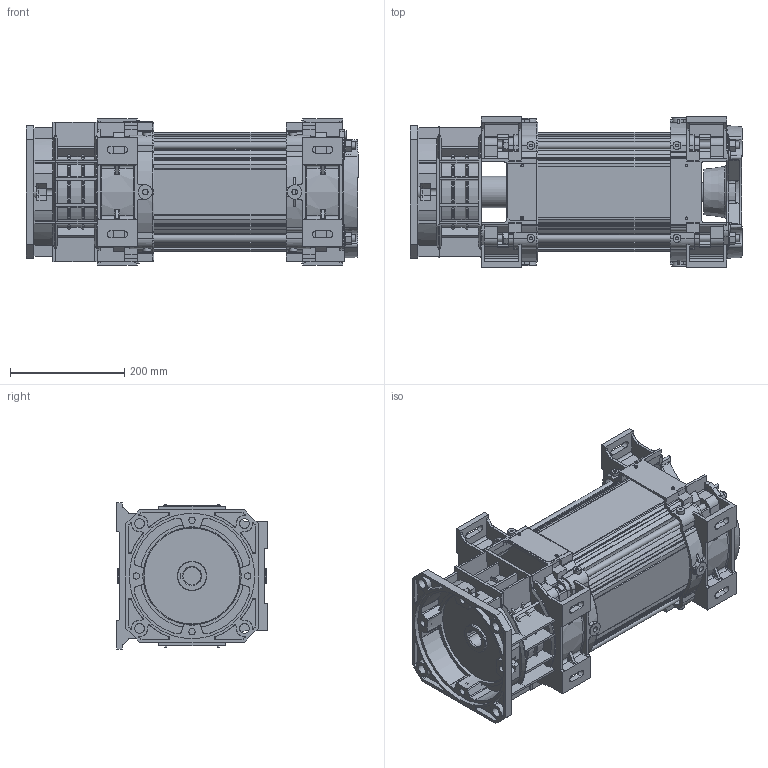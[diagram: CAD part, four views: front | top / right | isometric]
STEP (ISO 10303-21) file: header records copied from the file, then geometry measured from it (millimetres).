
FILE_DESCRIPTION(/* description */ ('Motore Tipo S76 Fl.220 F32-H275 NO Volano NO Piedi'),/* implementation_level */ '2;1');
FILE_NAME(/* name */ 'Y:\ServerTecnico\Mockup Motori x Sito Elmo\Mockup Tipo V76 Size 2 FL220 F32-H275 SI Volano D168.stp',/* time_stamp */ '2016-11-04T08:58:13+01:00',/* author */ ('aparmini'),/* organization */ (''),/* preprocessor_version */ 'ST-DEVELOPER v16.5',/* originating_system */ 'Autodesk Inventor 2017',/* authorisation */ '');
FILE_SCHEMA (('AUTOMOTIVE_DESIGN { 1 0 10303 214 3 1 1 }'));
Products named in the file (12): Mockup Tipo V76 Size 2 FL220 F32-H275 SI Volano168; Mockup Statore Size 2 - F32-H275 SI Volano D168; TGS10; CA2FD220N; CsperimParma Nuovo CRUC  14-02-05; Ca sperimSenza Volano Nuovo; CAV2 DISTANZIALE; Mockup CP2X062N; TI12ML425; UNI 5588 - M12; DIN 125-2 - B 13; UNI 5588 - M12_1
Assembly tree (23 placements, depth 3):
  Mockup Tipo V76 Size 2 FL220 F32-H275 SI Volano168
    Mockup Statore Size 2 - F32-H275 SI Volano D168
    TGS10
    CA2FD220N
      CsperimParma Nuovo CRUC  14-02-05
      Ca sperimSenza Volano Nuovo
      CAV2 DISTANZIALE
    Mockup CP2X062N
    TI12ML425  x4
    UNI 5588 - M12  x4
    DIN 125-2 - B 13  x4
    UNI 5588 - M12_1  x4
Bounding box: 582 x 264 x 256 mm (x, y, z)
Volume: 15545493.4 mm3; surface area: 1575801.8 mm2
Topology: 25 solids, 25 shells, 2445 faces, 6791 edges, 4403 vertices
Faces by surface type: plane 1027, cylinder 781, cone 439, torus 102, bspline 80, sphere 16
Full cylindrical faces by diameter (mm): 4 x8, 5 x10, 8 x2, 10 x4, 10.106 x8, 11 x4, 12 x4, 13 x8, 14 x10, 17 x4, 24 x4, 25 x5, 30 x1, 32 x1, 52 x2, 55 x1, 62 x3, 65 x1, 67.5 x1, 168 x1, 220 x1
Entity records: 76920 total; most frequent: CARTESIAN_POINT 17414, ORIENTED_EDGE 12606, DIRECTION 12604, EDGE_CURVE 6303, AXIS2_PLACEMENT_3D 4686, VERTEX_POINT 4165, LINE 3232, VECTOR 3232
